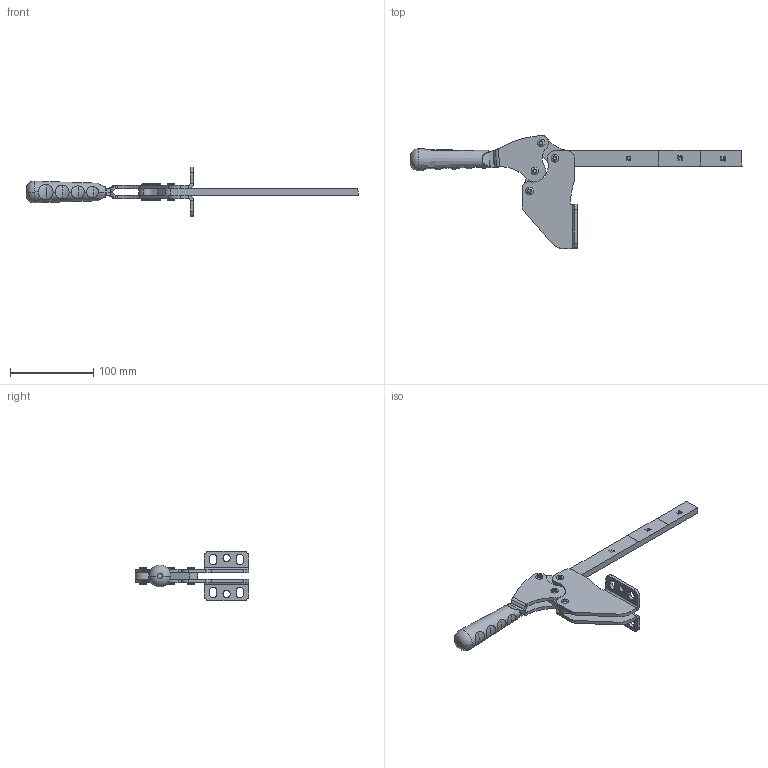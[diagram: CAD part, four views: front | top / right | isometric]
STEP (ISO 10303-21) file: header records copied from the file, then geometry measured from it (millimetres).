
FILE_DESCRIPTION (( 'STEP AP203' ), '1' );
FILE_NAME ('1264_A_L_MONTAJ.STEP', '2022-04-26T14:10:45', ( '' ), ( '' ), 'SwSTEP 2.0', 'SolidWorks 2020', '' );
FILE_SCHEMA (( 'CONFIG_CONTROL_DESIGN' ));
Length unit declared in the file: millimetre
Products named in the file (9): 6x21_PERﾇﾝN; 1264_MAFSAL; 1264_LAMA_BASKI_KOLU; C95_Yeni_Tutamak; Aynalama1264 A Gövde; 1264_A_L_MONTAJ; 1264_HAREKET_KOLU; Aynalama1264_HAREKET_KOLU; 1264 A Gövde
Assembly tree (11 placements, depth 2):
  1264_A_L_MONTAJ
    1264_HAREKET_KOLU
    Aynalama1264_HAREKET_KOLU
    1264_MAFSAL
    6x21_PERﾇﾝN  x4
    1264_LAMA_BASKI_KOLU
    1264 A Gövde
    Aynalama1264 A Gövde
    C95_Yeni_Tutamak
Bounding box: 399.4 x 137.06 x 60 mm (x, y, z)
Volume: 155989.6 mm3; surface area: 78345.8 mm2
Topology: 11 solids, 11 shells, 636 faces, 1647 edges, 1058 vertices
Faces by surface type: plane 381, cylinder 184, torus 36, bspline 31, sphere 2, cone 2
Entity records: 17091 total; most frequent: CARTESIAN_POINT 4476, ORIENTED_EDGE 2454, DIRECTION 2338, EDGE_CURVE 1227, VECTOR 810, LINE 810, VERTEX_POINT 794, AXIS2_PLACEMENT_3D 764
